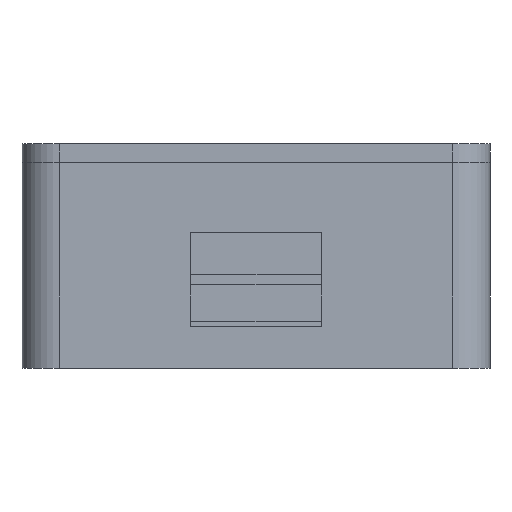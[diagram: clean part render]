
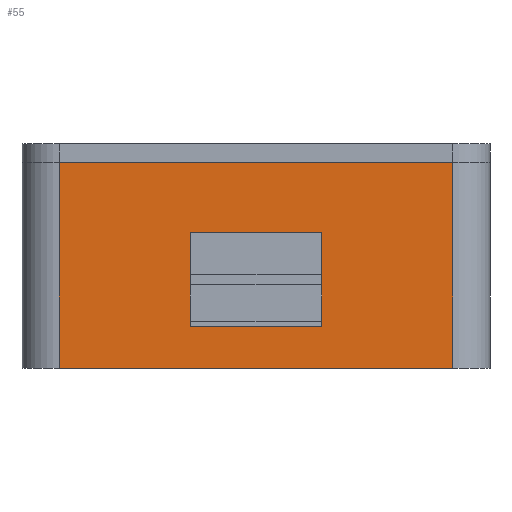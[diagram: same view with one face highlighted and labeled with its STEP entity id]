
A CAD part, left-side view. The second image highlights one B-rep face of the part: STEP entity #55.
In plain terms, the highlighted planar face has unit normal (-1, 0, 0).
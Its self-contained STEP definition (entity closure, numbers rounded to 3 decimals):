
#55 = ADVANCED_FACE('',(#56,#175),#70,.F.);
#56 = FACE_BOUND('',#57,.F.);
#57 = EDGE_LOOP('',(#58,#93,#121,#149));
#58 = ORIENTED_EDGE('',*,*,#59,.F.);
#59 = EDGE_CURVE('',#60,#62,#64,.T.);
#60 = VERTEX_POINT('',#61);
#61 = CARTESIAN_POINT('',(0.,4.,22.));
#62 = VERTEX_POINT('',#63);
#63 = CARTESIAN_POINT('',(0.,46.,22.));
#64 = SURFACE_CURVE('',#65,(#69,#81),.PCURVE_S1.);
#65 = LINE('',#66,#67);
#66 = CARTESIAN_POINT('',(0.,0.,22.));
#67 = VECTOR('',#68,1.);
#68 = DIRECTION('',(0.,1.,0.));
#69 = PCURVE('',#70,#75);
#70 = PLANE('',#71);
#71 = AXIS2_PLACEMENT_3D('',#72,#73,#74);
#72 = CARTESIAN_POINT('',(0.,0.,0.));
#73 = DIRECTION('',(1.,0.,0.));
#74 = DIRECTION('',(0.,0.,1.));
#75 = DEFINITIONAL_REPRESENTATION('',(#76),#80);
#76 = LINE('',#77,#78);
#77 = CARTESIAN_POINT('',(22.,0.));
#78 = VECTOR('',#79,1.);
#79 = DIRECTION('',(0.,-1.));
#80 = ( GEOMETRIC_REPRESENTATION_CONTEXT(2) 
PARAMETRIC_REPRESENTATION_CONTEXT() REPRESENTATION_CONTEXT('2D SPACE',''
  ) );
#81 = PCURVE('',#82,#87);
#82 = PLANE('',#83);
#83 = AXIS2_PLACEMENT_3D('',#84,#85,#86);
#84 = CARTESIAN_POINT('',(0.,0.,22.));
#85 = DIRECTION('',(0.,0.,1.));
#86 = DIRECTION('',(1.,0.,0.));
#87 = DEFINITIONAL_REPRESENTATION('',(#88),#92);
#88 = LINE('',#89,#90);
#89 = CARTESIAN_POINT('',(0.,0.));
#90 = VECTOR('',#91,1.);
#91 = DIRECTION('',(0.,1.));
#92 = ( GEOMETRIC_REPRESENTATION_CONTEXT(2) 
PARAMETRIC_REPRESENTATION_CONTEXT() REPRESENTATION_CONTEXT('2D SPACE',''
  ) );
#93 = ORIENTED_EDGE('',*,*,#94,.F.);
#94 = EDGE_CURVE('',#95,#60,#97,.T.);
#95 = VERTEX_POINT('',#96);
#96 = CARTESIAN_POINT('',(0.,4.,0.));
#97 = SURFACE_CURVE('',#98,(#102,#109),.PCURVE_S1.);
#98 = LINE('',#99,#100);
#99 = CARTESIAN_POINT('',(0.,4.,0.));
#100 = VECTOR('',#101,1.);
#101 = DIRECTION('',(0.,0.,1.));
#102 = PCURVE('',#70,#103);
#103 = DEFINITIONAL_REPRESENTATION('',(#104),#108);
#104 = LINE('',#105,#106);
#105 = CARTESIAN_POINT('',(0.,-4.));
#106 = VECTOR('',#107,1.);
#107 = DIRECTION('',(1.,0.));
#108 = ( GEOMETRIC_REPRESENTATION_CONTEXT(2) 
PARAMETRIC_REPRESENTATION_CONTEXT() REPRESENTATION_CONTEXT('2D SPACE',''
  ) );
#109 = PCURVE('',#110,#115);
#110 = CYLINDRICAL_SURFACE('',#111,4.);
#111 = AXIS2_PLACEMENT_3D('',#112,#113,#114);
#112 = CARTESIAN_POINT('',(4.,4.,0.));
#113 = DIRECTION('',(0.,0.,1.));
#114 = DIRECTION('',(-1.,-0.,0.));
#115 = DEFINITIONAL_REPRESENTATION('',(#116),#120);
#116 = LINE('',#117,#118);
#117 = CARTESIAN_POINT('',(0.,0.));
#118 = VECTOR('',#119,1.);
#119 = DIRECTION('',(0.,1.));
#120 = ( GEOMETRIC_REPRESENTATION_CONTEXT(2) 
PARAMETRIC_REPRESENTATION_CONTEXT() REPRESENTATION_CONTEXT('2D SPACE',''
  ) );
#121 = ORIENTED_EDGE('',*,*,#122,.T.);
#122 = EDGE_CURVE('',#95,#123,#125,.T.);
#123 = VERTEX_POINT('',#124);
#124 = CARTESIAN_POINT('',(0.,46.,0.));
#125 = SURFACE_CURVE('',#126,(#130,#137),.PCURVE_S1.);
#126 = LINE('',#127,#128);
#127 = CARTESIAN_POINT('',(0.,0.,0.));
#128 = VECTOR('',#129,1.);
#129 = DIRECTION('',(0.,1.,0.));
#130 = PCURVE('',#70,#131);
#131 = DEFINITIONAL_REPRESENTATION('',(#132),#136);
#132 = LINE('',#133,#134);
#133 = CARTESIAN_POINT('',(0.,0.));
#134 = VECTOR('',#135,1.);
#135 = DIRECTION('',(0.,-1.));
#136 = ( GEOMETRIC_REPRESENTATION_CONTEXT(2) 
PARAMETRIC_REPRESENTATION_CONTEXT() REPRESENTATION_CONTEXT('2D SPACE',''
  ) );
#137 = PCURVE('',#138,#143);
#138 = PLANE('',#139);
#139 = AXIS2_PLACEMENT_3D('',#140,#141,#142);
#140 = CARTESIAN_POINT('',(0.,0.,0.));
#141 = DIRECTION('',(0.,0.,1.));
#142 = DIRECTION('',(1.,0.,0.));
#143 = DEFINITIONAL_REPRESENTATION('',(#144),#148);
#144 = LINE('',#145,#146);
#145 = CARTESIAN_POINT('',(0.,0.));
#146 = VECTOR('',#147,1.);
#147 = DIRECTION('',(0.,1.));
#148 = ( GEOMETRIC_REPRESENTATION_CONTEXT(2) 
PARAMETRIC_REPRESENTATION_CONTEXT() REPRESENTATION_CONTEXT('2D SPACE',''
  ) );
#149 = ORIENTED_EDGE('',*,*,#150,.T.);
#150 = EDGE_CURVE('',#123,#62,#151,.T.);
#151 = SURFACE_CURVE('',#152,(#156,#163),.PCURVE_S1.);
#152 = LINE('',#153,#154);
#153 = CARTESIAN_POINT('',(0.,46.,0.));
#154 = VECTOR('',#155,1.);
#155 = DIRECTION('',(0.,0.,1.));
#156 = PCURVE('',#70,#157);
#157 = DEFINITIONAL_REPRESENTATION('',(#158),#162);
#158 = LINE('',#159,#160);
#159 = CARTESIAN_POINT('',(0.,-46.));
#160 = VECTOR('',#161,1.);
#161 = DIRECTION('',(1.,0.));
#162 = ( GEOMETRIC_REPRESENTATION_CONTEXT(2) 
PARAMETRIC_REPRESENTATION_CONTEXT() REPRESENTATION_CONTEXT('2D SPACE',''
  ) );
#163 = PCURVE('',#164,#169);
#164 = CYLINDRICAL_SURFACE('',#165,4.);
#165 = AXIS2_PLACEMENT_3D('',#166,#167,#168);
#166 = CARTESIAN_POINT('',(4.,46.,0.));
#167 = DIRECTION('',(0.,0.,1.));
#168 = DIRECTION('',(-1.,-0.,0.));
#169 = DEFINITIONAL_REPRESENTATION('',(#170),#174);
#170 = LINE('',#171,#172);
#171 = CARTESIAN_POINT('',(-0.,0.));
#172 = VECTOR('',#173,1.);
#173 = DIRECTION('',(-0.,1.));
#174 = ( GEOMETRIC_REPRESENTATION_CONTEXT(2) 
PARAMETRIC_REPRESENTATION_CONTEXT() REPRESENTATION_CONTEXT('2D SPACE',''
  ) );
#175 = FACE_BOUND('',#176,.F.);
#176 = EDGE_LOOP('',(#177,#205,#231,#257));
#177 = ORIENTED_EDGE('',*,*,#178,.T.);
#178 = EDGE_CURVE('',#179,#181,#183,.T.);
#179 = VERTEX_POINT('',#180);
#180 = CARTESIAN_POINT('',(0.,32.,4.5));
#181 = VERTEX_POINT('',#182);
#182 = CARTESIAN_POINT('',(0.,18.,4.5));
#183 = SURFACE_CURVE('',#184,(#188,#194),.PCURVE_S1.);
#184 = LINE('',#185,#186);
#185 = CARTESIAN_POINT('',(0.,9.,4.5));
#186 = VECTOR('',#187,1.);
#187 = DIRECTION('',(0.,-1.,0.));
#188 = PCURVE('',#70,#189);
#189 = DEFINITIONAL_REPRESENTATION('',(#190),#193);
#190 = B_SPLINE_CURVE_WITH_KNOTS('',1,(#191,#192),.UNSPECIFIED.,.F.,.F.,
  (2,2),(-23.,-9.),.PIECEWISE_BEZIER_KNOTS.);
#191 = CARTESIAN_POINT('',(4.5,-32.));
#192 = CARTESIAN_POINT('',(4.5,-18.));
#193 = ( GEOMETRIC_REPRESENTATION_CONTEXT(2) 
PARAMETRIC_REPRESENTATION_CONTEXT() REPRESENTATION_CONTEXT('2D SPACE',''
  ) );
#194 = PCURVE('',#195,#200);
#195 = PLANE('',#196);
#196 = AXIS2_PLACEMENT_3D('',#197,#198,#199);
#197 = CARTESIAN_POINT('',(-1.,18.,4.5));
#198 = DIRECTION('',(0.,0.,1.));
#199 = DIRECTION('',(1.,0.,0.));
#200 = DEFINITIONAL_REPRESENTATION('',(#201),#204);
#201 = B_SPLINE_CURVE_WITH_KNOTS('',1,(#202,#203),.UNSPECIFIED.,.F.,.F.,
  (2,2),(-23.,-9.),.PIECEWISE_BEZIER_KNOTS.);
#202 = CARTESIAN_POINT('',(1.,14.));
#203 = CARTESIAN_POINT('',(1.,0.));
#204 = ( GEOMETRIC_REPRESENTATION_CONTEXT(2) 
PARAMETRIC_REPRESENTATION_CONTEXT() REPRESENTATION_CONTEXT('2D SPACE',''
  ) );
#205 = ORIENTED_EDGE('',*,*,#206,.T.);
#206 = EDGE_CURVE('',#181,#207,#209,.T.);
#207 = VERTEX_POINT('',#208);
#208 = CARTESIAN_POINT('',(0.,18.,14.5));
#209 = SURFACE_CURVE('',#210,(#214,#220),.PCURVE_S1.);
#210 = LINE('',#211,#212);
#211 = CARTESIAN_POINT('',(0.,18.,2.25));
#212 = VECTOR('',#213,1.);
#213 = DIRECTION('',(0.,0.,1.));
#214 = PCURVE('',#70,#215);
#215 = DEFINITIONAL_REPRESENTATION('',(#216),#219);
#216 = B_SPLINE_CURVE_WITH_KNOTS('',1,(#217,#218),.UNSPECIFIED.,.F.,.F.,
  (2,2),(2.25,12.25),.PIECEWISE_BEZIER_KNOTS.);
#217 = CARTESIAN_POINT('',(4.5,-18.));
#218 = CARTESIAN_POINT('',(14.5,-18.));
#219 = ( GEOMETRIC_REPRESENTATION_CONTEXT(2) 
PARAMETRIC_REPRESENTATION_CONTEXT() REPRESENTATION_CONTEXT('2D SPACE',''
  ) );
#220 = PCURVE('',#221,#226);
#221 = PLANE('',#222);
#222 = AXIS2_PLACEMENT_3D('',#223,#224,#225);
#223 = CARTESIAN_POINT('',(-1.,18.,4.5));
#224 = DIRECTION('',(0.,1.,0.));
#225 = DIRECTION('',(0.,0.,1.));
#226 = DEFINITIONAL_REPRESENTATION('',(#227),#230);
#227 = B_SPLINE_CURVE_WITH_KNOTS('',1,(#228,#229),.UNSPECIFIED.,.F.,.F.,
  (2,2),(2.25,12.25),.PIECEWISE_BEZIER_KNOTS.);
#228 = CARTESIAN_POINT('',(0.,1.));
#229 = CARTESIAN_POINT('',(10.,1.));
#230 = ( GEOMETRIC_REPRESENTATION_CONTEXT(2) 
PARAMETRIC_REPRESENTATION_CONTEXT() REPRESENTATION_CONTEXT('2D SPACE',''
  ) );
#231 = ORIENTED_EDGE('',*,*,#232,.F.);
#232 = EDGE_CURVE('',#233,#207,#235,.T.);
#233 = VERTEX_POINT('',#234);
#234 = CARTESIAN_POINT('',(0.,32.,14.5));
#235 = SURFACE_CURVE('',#236,(#240,#246),.PCURVE_S1.);
#236 = LINE('',#237,#238);
#237 = CARTESIAN_POINT('',(0.,9.,14.5));
#238 = VECTOR('',#239,1.);
#239 = DIRECTION('',(0.,-1.,0.));
#240 = PCURVE('',#70,#241);
#241 = DEFINITIONAL_REPRESENTATION('',(#242),#245);
#242 = B_SPLINE_CURVE_WITH_KNOTS('',1,(#243,#244),.UNSPECIFIED.,.F.,.F.,
  (2,2),(-23.,-9.),.PIECEWISE_BEZIER_KNOTS.);
#243 = CARTESIAN_POINT('',(14.5,-32.));
#244 = CARTESIAN_POINT('',(14.5,-18.));
#245 = ( GEOMETRIC_REPRESENTATION_CONTEXT(2) 
PARAMETRIC_REPRESENTATION_CONTEXT() REPRESENTATION_CONTEXT('2D SPACE',''
  ) );
#246 = PCURVE('',#247,#252);
#247 = PLANE('',#248);
#248 = AXIS2_PLACEMENT_3D('',#249,#250,#251);
#249 = CARTESIAN_POINT('',(-1.,18.,14.5));
#250 = DIRECTION('',(0.,0.,1.));
#251 = DIRECTION('',(1.,0.,0.));
#252 = DEFINITIONAL_REPRESENTATION('',(#253),#256);
#253 = B_SPLINE_CURVE_WITH_KNOTS('',1,(#254,#255),.UNSPECIFIED.,.F.,.F.,
  (2,2),(-23.,-9.),.PIECEWISE_BEZIER_KNOTS.);
#254 = CARTESIAN_POINT('',(1.,14.));
#255 = CARTESIAN_POINT('',(1.,0.));
#256 = ( GEOMETRIC_REPRESENTATION_CONTEXT(2) 
PARAMETRIC_REPRESENTATION_CONTEXT() REPRESENTATION_CONTEXT('2D SPACE',''
  ) );
#257 = ORIENTED_EDGE('',*,*,#258,.F.);
#258 = EDGE_CURVE('',#179,#233,#259,.T.);
#259 = SURFACE_CURVE('',#260,(#264,#270),.PCURVE_S1.);
#260 = LINE('',#261,#262);
#261 = CARTESIAN_POINT('',(0.,32.,2.25));
#262 = VECTOR('',#263,1.);
#263 = DIRECTION('',(0.,0.,1.));
#264 = PCURVE('',#70,#265);
#265 = DEFINITIONAL_REPRESENTATION('',(#266),#269);
#266 = B_SPLINE_CURVE_WITH_KNOTS('',1,(#267,#268),.UNSPECIFIED.,.F.,.F.,
  (2,2),(2.25,12.25),.PIECEWISE_BEZIER_KNOTS.);
#267 = CARTESIAN_POINT('',(4.5,-32.));
#268 = CARTESIAN_POINT('',(14.5,-32.));
#269 = ( GEOMETRIC_REPRESENTATION_CONTEXT(2) 
PARAMETRIC_REPRESENTATION_CONTEXT() REPRESENTATION_CONTEXT('2D SPACE',''
  ) );
#270 = PCURVE('',#271,#276);
#271 = PLANE('',#272);
#272 = AXIS2_PLACEMENT_3D('',#273,#274,#275);
#273 = CARTESIAN_POINT('',(-1.,32.,4.5));
#274 = DIRECTION('',(0.,1.,0.));
#275 = DIRECTION('',(0.,0.,1.));
#276 = DEFINITIONAL_REPRESENTATION('',(#277),#280);
#277 = B_SPLINE_CURVE_WITH_KNOTS('',1,(#278,#279),.UNSPECIFIED.,.F.,.F.,
  (2,2),(2.25,12.25),.PIECEWISE_BEZIER_KNOTS.);
#278 = CARTESIAN_POINT('',(0.,1.));
#279 = CARTESIAN_POINT('',(10.,1.));
#280 = ( GEOMETRIC_REPRESENTATION_CONTEXT(2) 
PARAMETRIC_REPRESENTATION_CONTEXT() REPRESENTATION_CONTEXT('2D SPACE',''
  ) );
